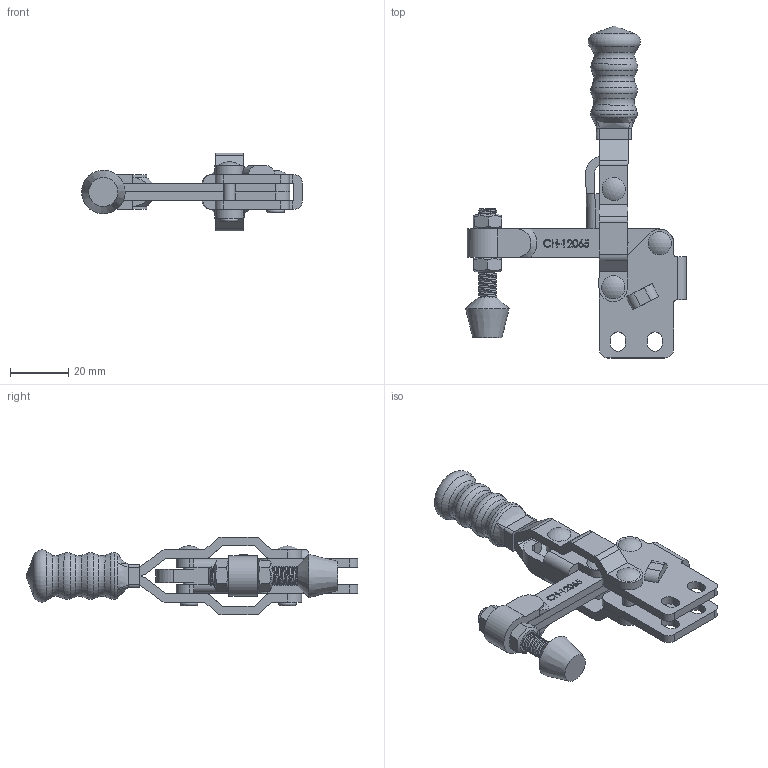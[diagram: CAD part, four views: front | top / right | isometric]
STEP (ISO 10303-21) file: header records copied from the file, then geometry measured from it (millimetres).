
FILE_DESCRIPTION(/* description */ ('STEP AP203'),/* implementation_level */ '2;1');
FILE_NAME(/* name */ 'D:\Vault_2016\Projekty\NASZ KATALOG\CLAMPTEK\STRONA\Vertical toggle clamp\CH-12065\CH-12065_ZAMKNIETY.stp',/* time_stamp */ '2019-01-18T12:49:33+01:00',/* author */ ('CADENGINEERING4'),/* organization */ ('Î¢ÈíÖÐ¹ú'),/* preprocessor_version */ 'ST-DEVELOPER v17.2',/* originating_system */ 'Autodesk Inventor 2019',/* authorisation */ '');
FILE_SCHEMA (('AUTOMOTIVE_DESIGN { 1 0 10303 214 3 1 1 }'));
Length unit declared in the file: millimetre
Products named in the file (10): CH-12065_ZAMKNIETY; CH-12055-01 STRAIGHT BASE; CH-12050-03 STRAIGHT HANDLE; CH-12050-04 CONNECTING-PLATE; CH-12050-05; CH-12050-06; CH-12050-07; CH-FC-14134 SPINDLE SUPPLIED; CH-FC-14134 Nut; CH-12065-02 SOLID BAR_Ä¬ÈÏ_°´¼
Ó¹¤_
Assembly tree (12 placements, depth 2):
  CH-12065_ZAMKNIETY
    CH-12055-01 STRAIGHT BASE
    CH-12050-03 STRAIGHT HANDLE
    CH-12050-04 CONNECTING-PLATE
    CH-12050-05
    CH-12050-06  x2
    CH-12050-07  x2
    CH-FC-14134 Nut  x2
    CH-FC-14134 SPINDLE SUPPLIED
    CH-12065-02 SOLID BAR_Ä¬ÈÏ_°´¼
Ó¹¤_
Bounding box: 76 x 114.25 x 26.8 mm (x, y, z)
Volume: 26677.8 mm3; surface area: 23892.9 mm2
Topology: 17 solids, 19 shells, 653 faces, 1807 edges, 1221 vertices
Faces by surface type: plane 288, bspline 189, cylinder 129, cone 27, torus 16, sphere 4
Full cylindrical faces by diameter (mm): 1.219 x1, 1.411 x1, 4 x20, 5.1 x6, 6.4 x26
Entity records: 38127 total; most frequent: CARTESIAN_POINT 23016, ORIENTED_EDGE 3422, DIRECTION 2438, EDGE_CURVE 1711, VERTEX_POINT 1157, LINE 942, VECTOR 942, AXIS2_PLACEMENT_3D 748
